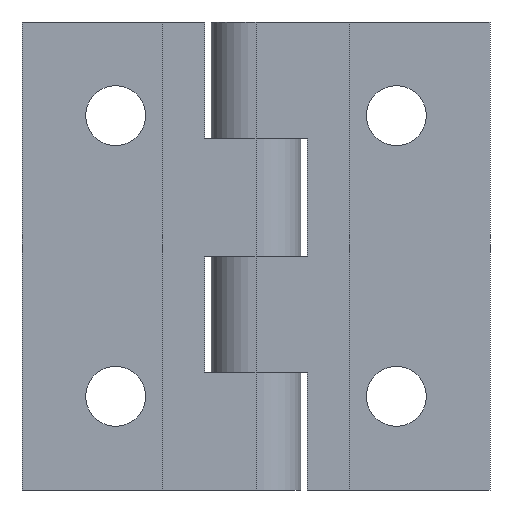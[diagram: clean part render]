
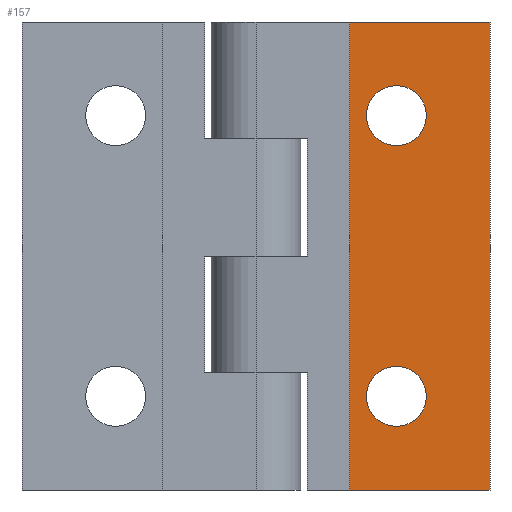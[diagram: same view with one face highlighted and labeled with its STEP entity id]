
A CAD part, front view. The second image highlights one B-rep face of the part: STEP entity #157.
In plain terms, the highlighted planar face has unit normal (0, -1, 0).
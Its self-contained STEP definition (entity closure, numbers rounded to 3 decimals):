
#157=ADVANCED_FACE('',(#272,#273,#274),#275,.T.);
#272=FACE_BOUND('',#437,.T.);
#273=FACE_BOUND('',#438,.T.);
#274=FACE_OUTER_BOUND('',#439,.T.);
#275=PLANE('',#440);
#437=EDGE_LOOP('',(#802,#803));
#438=EDGE_LOOP('',(#804,#805));
#439=EDGE_LOOP('',(#806,#807,#808,#809));
#440=AXIS2_PLACEMENT_3D('',#810,#811,#812);
#802=ORIENTED_EDGE('',*,*,#1186,.T.);
#803=ORIENTED_EDGE('',*,*,#1166,.T.);
#804=ORIENTED_EDGE('',*,*,#1189,.T.);
#805=ORIENTED_EDGE('',*,*,#1159,.T.);
#806=ORIENTED_EDGE('',*,*,#1254,.T.);
#807=ORIENTED_EDGE('',*,*,#1255,.F.);
#808=ORIENTED_EDGE('',*,*,#1256,.T.);
#809=ORIENTED_EDGE('',*,*,#1252,.T.);
#810=CARTESIAN_POINT('',(25.0,0.0,0.0));
#811=DIRECTION('',(0.0,-1.0,0.0));
#812=DIRECTION('',(1.0,0.0,0.0));
#1159=EDGE_CURVE('',#1363,#1360,#1364,.T.);
#1166=EDGE_CURVE('',#1376,#1373,#1377,.T.);
#1186=EDGE_CURVE('',#1373,#1376,#1408,.T.);
#1189=EDGE_CURVE('',#1360,#1363,#1411,.T.);
#1252=EDGE_CURVE('',#1517,#1515,#1518,.T.);
#1254=EDGE_CURVE('',#1515,#1520,#1521,.T.);
#1255=EDGE_CURVE('',#1522,#1520,#1523,.T.);
#1256=EDGE_CURVE('',#1522,#1517,#1524,.T.);
#1360=VERTEX_POINT('',#1694);
#1363=VERTEX_POINT('',#1698);
#1364=CIRCLE('',#1699,3.2);
#1373=VERTEX_POINT('',#1711);
#1376=VERTEX_POINT('',#1715);
#1377=CIRCLE('',#1716,3.2);
#1408=CIRCLE('',#1754,3.2);
#1411=CIRCLE('',#1757,3.2);
#1515=VERTEX_POINT('',#1918);
#1517=VERTEX_POINT('',#1921);
#1518=LINE('',#1922,#1923);
#1520=VERTEX_POINT('',#1926);
#1521=LINE('',#1927,#1928);
#1522=VERTEX_POINT('',#1929);
#1523=LINE('',#1930,#1931);
#1524=LINE('',#1932,#1933);
#1694=CARTESIAN_POINT('',(11.8,0.0,10.0));
#1698=CARTESIAN_POINT('',(18.2,0.,10.0));
#1699=AXIS2_PLACEMENT_3D('',#2183,#2184,#2185);
#1711=CARTESIAN_POINT('',(11.8,0.0,40.0));
#1715=CARTESIAN_POINT('',(18.2,0.,40.0));
#1716=AXIS2_PLACEMENT_3D('',#2196,#2197,#2198);
#1754=AXIS2_PLACEMENT_3D('',#2242,#2243,#2244);
#1757=AXIS2_PLACEMENT_3D('',#2251,#2252,#2253);
#1918=CARTESIAN_POINT('',(25.0,0.0,50.0));
#1921=CARTESIAN_POINT('',(25.0,0.0,0.0));
#1922=CARTESIAN_POINT('',(25.0,0.0,0.0));
#1923=VECTOR('',#2324,1.0);
#1926=CARTESIAN_POINT('',(10.0,0.0,50.0));
#1927=CARTESIAN_POINT('',(10.0,0.0,50.0));
#1928=VECTOR('',#2326,1.0);
#1929=CARTESIAN_POINT('',(10.0,0.0,0.0));
#1930=CARTESIAN_POINT('',(10.0,0.0,0.0));
#1931=VECTOR('',#2327,1.0);
#1932=CARTESIAN_POINT('',(10.0,0.0,0.0));
#1933=VECTOR('',#2328,1.0);
#2183=CARTESIAN_POINT('',(15.0,0.,10.0));
#2184=DIRECTION('',(0.0,1.0,0.0));
#2185=DIRECTION('',(-1.0,0.0,0.));
#2196=CARTESIAN_POINT('',(15.0,0.,40.0));
#2197=DIRECTION('',(0.0,1.0,0.0));
#2198=DIRECTION('',(-1.0,0.0,0.));
#2242=CARTESIAN_POINT('',(15.0,0.,40.0));
#2243=DIRECTION('',(0.0,1.0,0.0));
#2244=DIRECTION('',(-1.0,0.0,0.));
#2251=CARTESIAN_POINT('',(15.0,0.,10.0));
#2252=DIRECTION('',(0.0,1.0,0.0));
#2253=DIRECTION('',(-1.0,0.0,0.));
#2324=DIRECTION('',(0.0,0.0,1.0));
#2326=DIRECTION('',(-1.0,0.0,0.0));
#2327=DIRECTION('',(0.0,0.0,1.0));
#2328=DIRECTION('',(1.0,0.0,0.0));
